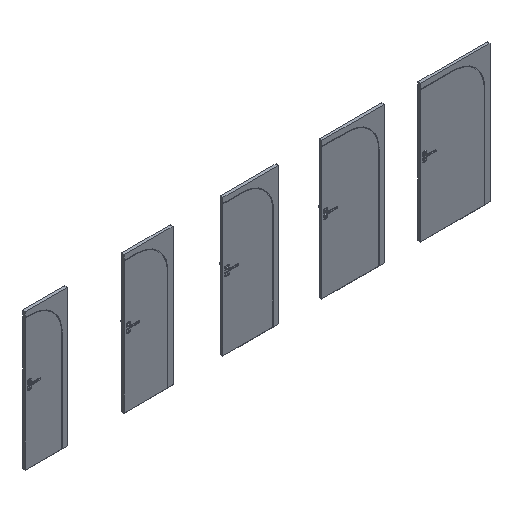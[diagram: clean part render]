
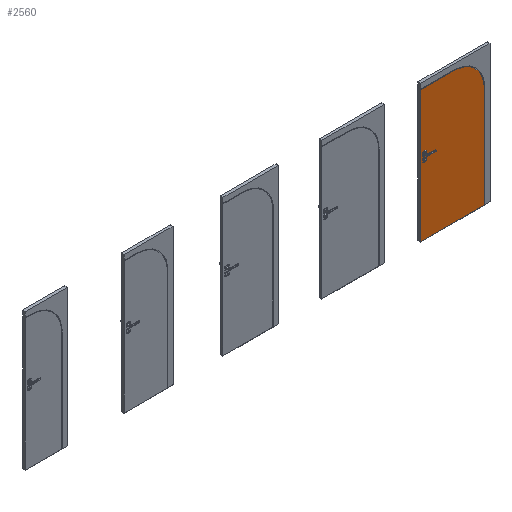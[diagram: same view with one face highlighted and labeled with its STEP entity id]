
A CAD part, isometric view. The second image highlights one B-rep face of the part: STEP entity #2560.
In plain terms, the highlighted planar face has unit normal (0, -1, 0).
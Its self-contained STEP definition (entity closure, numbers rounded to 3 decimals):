
#1534=FACE_OUTER_BOUND('',#4986,.T.);
#2560=ADVANCED_FACE('',(#1534),#3476,.F.);
#3476=PLANE('',#17674);
#4003=CIRCLE('',#17673,446.85);
#4986=EDGE_LOOP('',(#7205,#7206,#7207,#7208,#7209));
#7205=ORIENTED_EDGE('',*,*,#12833,.F.);
#7206=ORIENTED_EDGE('',*,*,#12834,.T.);
#7207=ORIENTED_EDGE('',*,*,#12835,.T.);
#7208=ORIENTED_EDGE('',*,*,#12836,.T.);
#7209=ORIENTED_EDGE('',*,*,#12837,.F.);
#11131=VERTEX_POINT('',#25829);
#11132=VERTEX_POINT('',#25830);
#11133=VERTEX_POINT('',#25832);
#11134=VERTEX_POINT('',#25834);
#11135=VERTEX_POINT('',#25836);
#12833=EDGE_CURVE('',#11131,#11132,#4003,.T.);
#12834=EDGE_CURVE('',#11131,#11133,#14975,.T.);
#12835=EDGE_CURVE('',#11133,#11134,#14976,.T.);
#12836=EDGE_CURVE('',#11134,#11135,#14977,.T.);
#12837=EDGE_CURVE('',#11132,#11135,#14978,.T.);
#14975=LINE('',#25831,#16265);
#14976=LINE('',#25833,#16266);
#14977=LINE('',#25835,#16267);
#14978=LINE('',#25837,#16268);
#16265=VECTOR('',#20362,1.);
#16266=VECTOR('',#20363,1.);
#16267=VECTOR('',#20364,1.);
#16268=VECTOR('',#20365,1.);
#17673=AXIS2_PLACEMENT_3D('',#25828,#20360,#20361);
#17674=AXIS2_PLACEMENT_3D('',#25838,#20366,#20367);
#20360=DIRECTION('',(0.,1.,0.));
#20361=DIRECTION('',(0.,0.,1.));
#20362=DIRECTION('',(-1.,0.,0.));
#20363=DIRECTION('',(0.,0.,-1.));
#20364=DIRECTION('',(1.,0.,0.));
#20365=DIRECTION('',(0.,0.,-1.));
#20366=DIRECTION('',(0.,1.,0.));
#20367=DIRECTION('',(0.,0.,1.));
#25828=CARTESIAN_POINT('',(5978.,-39.3,1486.));
#25829=CARTESIAN_POINT('',(5978.,-39.3,1932.85));
#25830=CARTESIAN_POINT('',(6424.85,-39.3,1486.));
#25831=CARTESIAN_POINT('',(5978.,-39.3,1932.85));
#25832=CARTESIAN_POINT('',(5491.,-39.3,1932.85));
#25833=CARTESIAN_POINT('',(5491.,-39.3,2017.));
#25834=CARTESIAN_POINT('',(5491.,-39.3,2.));
#25835=CARTESIAN_POINT('',(5691.,-39.3,2.));
#25836=CARTESIAN_POINT('',(6424.85,-39.3,2.));
#25837=CARTESIAN_POINT('',(6424.85,-39.3,1486.));
#25838=CARTESIAN_POINT('',(5691.,-39.3,2017.));
